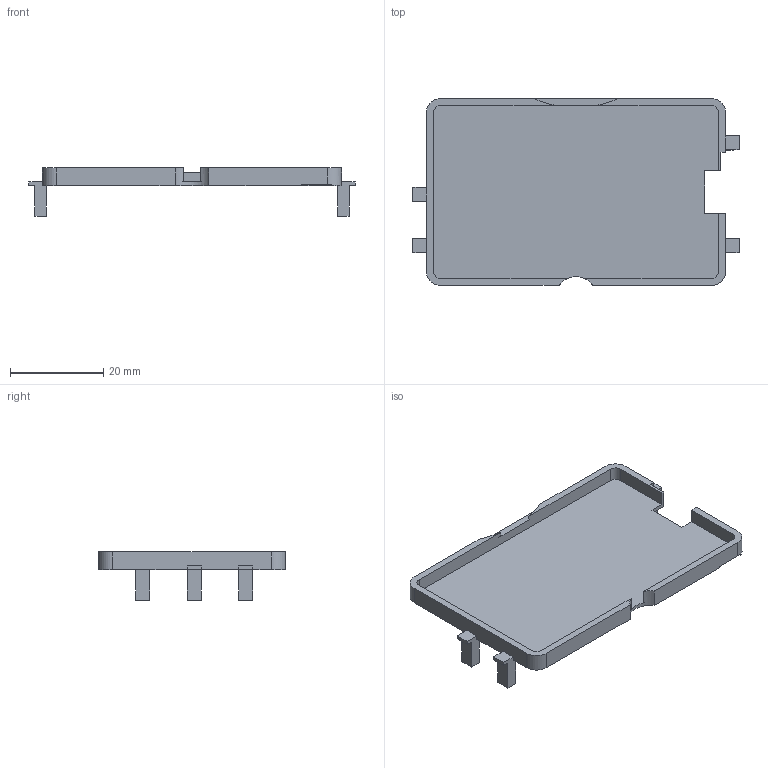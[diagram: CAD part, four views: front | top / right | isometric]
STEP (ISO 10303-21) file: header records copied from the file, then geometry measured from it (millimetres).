
FILE_DESCRIPTION(('Open CASCADE Model'),'2;1');
FILE_NAME('Open CASCADE Shape Model','2026-09-06T11:23:49',('Author'),( 'Open CASCADE'),'Open CASCADE STEP processor 7.7','Open CASCADE 7.7' ,'Unknown');
FILE_SCHEMA(('AUTOMOTIVE_DESIGN { 1 0 10303 214 1 1 1 1 }'));
Length unit declared in the file: millimetre
Products named in the file (1): Open CASCADE STEP translator 7.7 7
Bounding box: 69.8 x 40 x 10.35 mm (x, y, z)
Volume: 2975.3 mm3; surface area: 6659.9 mm2
Topology: 1 solids, 1 shells, 81 faces, 234 edges, 156 vertices
Faces by surface type: plane 64, cylinder 17
Entity records: 5716 total; most frequent: CARTESIAN_POINT 1038, DIRECTION 870, LINE 608, VECTOR 608, ORIENTED_EDGE 468, PCURVE 468, DEFINITIONAL_REPRESENTATION 468, EDGE_CURVE 234
